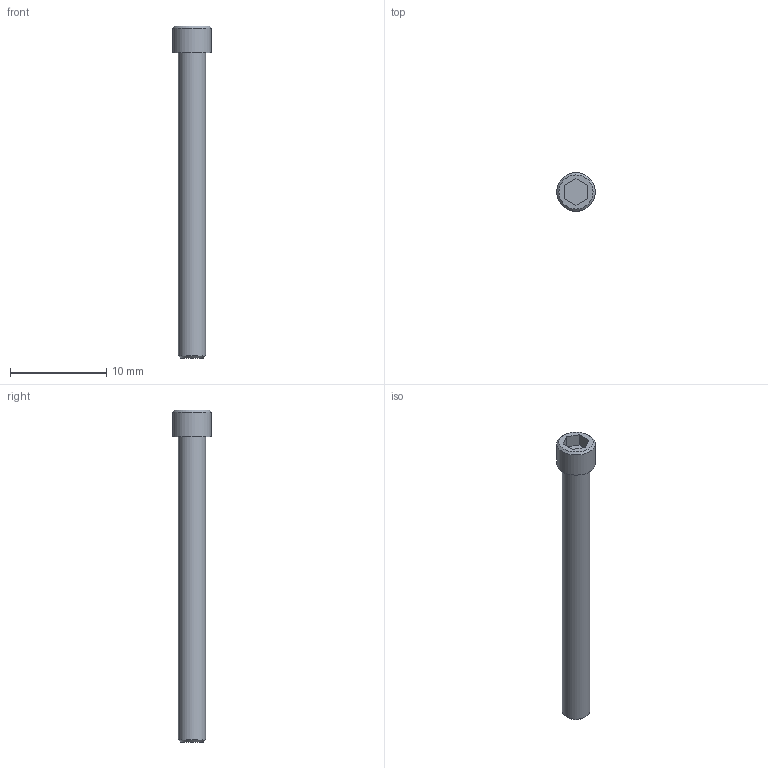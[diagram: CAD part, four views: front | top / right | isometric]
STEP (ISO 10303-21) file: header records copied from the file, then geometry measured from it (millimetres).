
FILE_DESCRIPTION((''),'2;1');
FILE_NAME('C:\Users\Stan\Desktop\import\SHCS 4-40 UNCx1.25.ipt.step','2011-08-18T17:44:34',(''),(''),'Autodesk Inventor 2012','Autodesk Inventor 2012','');
FILE_SCHEMA(('AUTOMOTIVE_DESIGN { 1 0 10303 214 1 1 1 1 }'));
Length unit declared in the file: inch
Products named in the file (1): SHCS 4-40 UNCx1.25
Bounding box: 4.01 x 4.01 x 34.54 mm (x, y, z)
Volume: 230.2 mm3; surface area: 352 mm2
Topology: 1 solids, 1 shells, 14 faces, 28 edges, 18 vertices
Faces by surface type: plane 10, cone 2, cylinder 2
Full cylindrical faces by diameter (mm): 2.845 x1, 4.013 x1
Entity records: 391 total; most frequent: DIRECTION 60, CARTESIAN_POINT 57, ORIENTED_EDGE 48, EDGE_CURVE 24, AXIS2_PLACEMENT_3D 21, EDGE_LOOP 20, VERTEX_POINT 18, VECTOR 18
